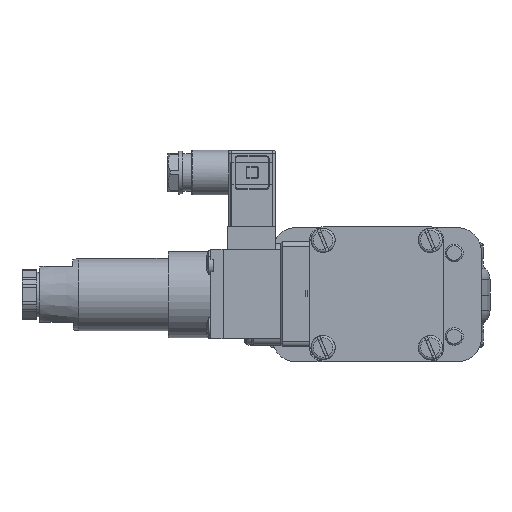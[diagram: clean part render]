
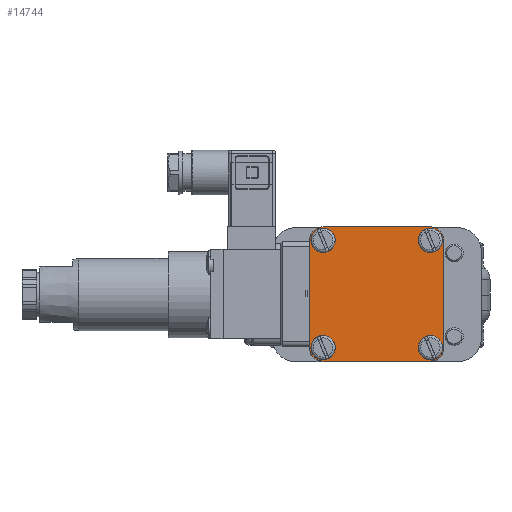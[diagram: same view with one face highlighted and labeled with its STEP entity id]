
A CAD part, top view. The second image highlights one B-rep face of the part: STEP entity #14744.
In plain terms, the highlighted planar face has unit normal (0, 0, 1) as drawn and (-1, 0, 0) by its records, which use the part's own axes.
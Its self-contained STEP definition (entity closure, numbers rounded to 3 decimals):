
#14744=ADVANCED_FACE('',(#23089,#23090,#23091,#23092,#23093),#16470,.T.);
#16470=PLANE('',#45041);
#17978=LINE('',#60229,#20618);
#17979=LINE('',#60234,#20619);
#17980=LINE('',#60238,#20620);
#17981=LINE('',#60242,#20621);
#20618=VECTOR('',#49230,1.);
#20619=VECTOR('',#49233,1.);
#20620=VECTOR('',#49236,1.);
#20621=VECTOR('',#49239,1.);
#23089=FACE_BOUND('',#24306,.T.);
#23090=FACE_BOUND('',#24307,.T.);
#23091=FACE_BOUND('',#24308,.T.);
#23092=FACE_BOUND('',#24309,.T.);
#23093=FACE_BOUND('',#24310,.T.);
#24306=EDGE_LOOP('',(#28272));
#24307=EDGE_LOOP('',(#28273));
#24308=EDGE_LOOP('',(#28274,#28275,#28276,#28277,#28278,#28279,#28280,#28281));
#24309=EDGE_LOOP('',(#28282));
#24310=EDGE_LOOP('',(#28283));
#28272=ORIENTED_EDGE('',*,*,#39708,.T.);
#28273=ORIENTED_EDGE('',*,*,#39709,.T.);
#28274=ORIENTED_EDGE('',*,*,#39710,.T.);
#28275=ORIENTED_EDGE('',*,*,#39711,.T.);
#28276=ORIENTED_EDGE('',*,*,#39712,.T.);
#28277=ORIENTED_EDGE('',*,*,#39713,.T.);
#28278=ORIENTED_EDGE('',*,*,#39714,.T.);
#28279=ORIENTED_EDGE('',*,*,#39715,.T.);
#28280=ORIENTED_EDGE('',*,*,#39716,.T.);
#28281=ORIENTED_EDGE('',*,*,#39717,.T.);
#28282=ORIENTED_EDGE('',*,*,#39718,.T.);
#28283=ORIENTED_EDGE('',*,*,#39719,.T.);
#36198=VERTEX_POINT('',#60226);
#36199=VERTEX_POINT('',#60228);
#36200=VERTEX_POINT('',#60230);
#36201=VERTEX_POINT('',#60231);
#36202=VERTEX_POINT('',#60233);
#36203=VERTEX_POINT('',#60235);
#36204=VERTEX_POINT('',#60237);
#36205=VERTEX_POINT('',#60239);
#36206=VERTEX_POINT('',#60241);
#36207=VERTEX_POINT('',#60243);
#36208=VERTEX_POINT('',#60246);
#36209=VERTEX_POINT('',#60248);
#39708=EDGE_CURVE('',#36198,#36198,#43548,.T.);
#39709=EDGE_CURVE('',#36199,#36199,#43549,.T.);
#39710=EDGE_CURVE('',#36200,#36201,#17978,.T.);
#39711=EDGE_CURVE('',#36201,#36202,#43550,.T.);
#39712=EDGE_CURVE('',#36202,#36203,#17979,.T.);
#39713=EDGE_CURVE('',#36203,#36204,#43551,.T.);
#39714=EDGE_CURVE('',#36204,#36205,#17980,.T.);
#39715=EDGE_CURVE('',#36205,#36206,#43552,.T.);
#39716=EDGE_CURVE('',#36206,#36207,#17981,.T.);
#39717=EDGE_CURVE('',#36207,#36200,#43553,.T.);
#39718=EDGE_CURVE('',#36208,#36208,#43554,.T.);
#39719=EDGE_CURVE('',#36209,#36209,#43555,.T.);
#43548=CIRCLE('',#45033,2.8);
#43549=CIRCLE('',#45034,2.8);
#43550=CIRCLE('',#45035,4.5);
#43551=CIRCLE('',#45036,4.5);
#43552=CIRCLE('',#45037,4.5);
#43553=CIRCLE('',#45038,4.5);
#43554=CIRCLE('',#45039,2.8);
#43555=CIRCLE('',#45040,2.8);
#45033=AXIS2_PLACEMENT_3D('',#60225,#49226,#49227);
#45034=AXIS2_PLACEMENT_3D('',#60227,#49228,#49229);
#45035=AXIS2_PLACEMENT_3D('',#60232,#49231,#49232);
#45036=AXIS2_PLACEMENT_3D('',#60236,#49234,#49235);
#45037=AXIS2_PLACEMENT_3D('',#60240,#49237,#49238);
#45038=AXIS2_PLACEMENT_3D('',#60244,#49240,#49241);
#45039=AXIS2_PLACEMENT_3D('',#60245,#49242,#49243);
#45040=AXIS2_PLACEMENT_3D('',#60247,#49244,#49245);
#45041=AXIS2_PLACEMENT_3D('',#60249,#49246,#49247);
#49226=DIRECTION('',(1.,0.,0.));
#49227=DIRECTION('',(0.,0.,1.));
#49228=DIRECTION('',(1.,0.,0.));
#49229=DIRECTION('',(0.,0.,1.));
#49230=DIRECTION('',(0.,1.,0.));
#49231=DIRECTION('',(-1.,0.,0.));
#49232=DIRECTION('',(0.,0.,1.));
#49233=DIRECTION('',(0.,0.,-1.));
#49234=DIRECTION('',(-1.,0.,0.));
#49235=DIRECTION('',(0.,1.,0.));
#49236=DIRECTION('',(0.,-1.,0.));
#49237=DIRECTION('',(-1.,0.,0.));
#49238=DIRECTION('',(0.,0.,-1.));
#49239=DIRECTION('',(0.,0.,1.));
#49240=DIRECTION('',(-1.,0.,0.));
#49241=DIRECTION('',(0.,0.,1.));
#49242=DIRECTION('',(1.,0.,0.));
#49243=DIRECTION('',(0.,0.,1.));
#49244=DIRECTION('',(1.,0.,0.));
#49245=DIRECTION('',(0.,0.,1.));
#49246=DIRECTION('',(-1.,0.,0.));
#49247=DIRECTION('',(0.,0.,1.));
#60225=CARTESIAN_POINT('',(0.,4.5,4.5));
#60226=CARTESIAN_POINT('',(0.,4.5,7.3));
#60227=CARTESIAN_POINT('',(0.,40.5,40.5));
#60228=CARTESIAN_POINT('',(0.,40.5,43.3));
#60229=CARTESIAN_POINT('',(0.,4.5,45.));
#60230=CARTESIAN_POINT('',(0.,4.5,45.));
#60231=CARTESIAN_POINT('',(0.,40.5,45.));
#60232=CARTESIAN_POINT('',(0.,40.5,40.5));
#60233=CARTESIAN_POINT('',(0.,45.,40.5));
#60234=CARTESIAN_POINT('',(0.,45.,40.5));
#60235=CARTESIAN_POINT('',(0.,45.,4.5));
#60236=CARTESIAN_POINT('',(0.,40.5,4.5));
#60237=CARTESIAN_POINT('',(0.,40.5,0.));
#60238=CARTESIAN_POINT('',(0.,40.5,0.));
#60239=CARTESIAN_POINT('',(0.,4.5,0.));
#60240=CARTESIAN_POINT('',(0.,4.5,4.5));
#60241=CARTESIAN_POINT('',(0.,0.,4.5));
#60242=CARTESIAN_POINT('',(0.,0.,4.5));
#60243=CARTESIAN_POINT('',(0.,0.,40.5));
#60244=CARTESIAN_POINT('',(0.,4.5,40.5));
#60245=CARTESIAN_POINT('',(0.,40.5,4.5));
#60246=CARTESIAN_POINT('',(0.,40.5,7.3));
#60247=CARTESIAN_POINT('',(0.,4.5,40.5));
#60248=CARTESIAN_POINT('',(0.,4.5,43.3));
#60249=CARTESIAN_POINT('',(0.,40.5,40.5));
